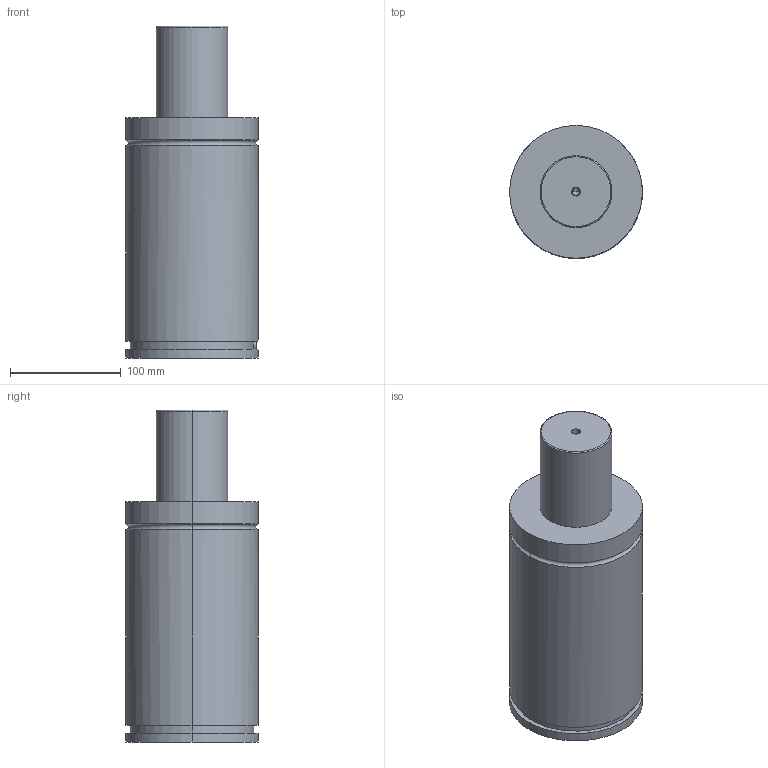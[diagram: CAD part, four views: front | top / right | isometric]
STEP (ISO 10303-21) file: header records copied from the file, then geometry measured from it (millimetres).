
FILE_DESCRIPTION(/* description */ (''),/* implementation_level */ '2;1');
FILE_NAME(/* name */ '3d_gse120-80_03878_r00.stp',/* time_stamp */ '2011-01-10T14:15:20+09:00',/* author */ ('MISUMI'),/* organization */ (''),/* preprocessor_version */ 'ST-DEVELOPER v11',/* originating_system */ 'UGS - NX 5.0',/* authorisation */ '');
FILE_SCHEMA (('CONFIG_CONTROL_DESIGN'));
Length unit declared in the file: millimetre
Products named in the file (1): 3d_gse120-80_03878_r00
Bounding box: 120 x 120 x 300 mm (x, y, z)
Volume: 2708160.3 mm3; surface area: 128312.3 mm2
Topology: 1 solids, 1 shells, 75 faces, 161 edges, 103 vertices
Faces by surface type: cylinder 34, plane 27, cone 10, torus 4
Entity records: 2145 total; most frequent: DIRECTION 393, CARTESIAN_POINT 360, ORIENTED_EDGE 318, AXIS2_PLACEMENT_3D 164, EDGE_CURVE 159, VERTEX_POINT 103, EDGE_LOOP 92, CIRCLE 88
